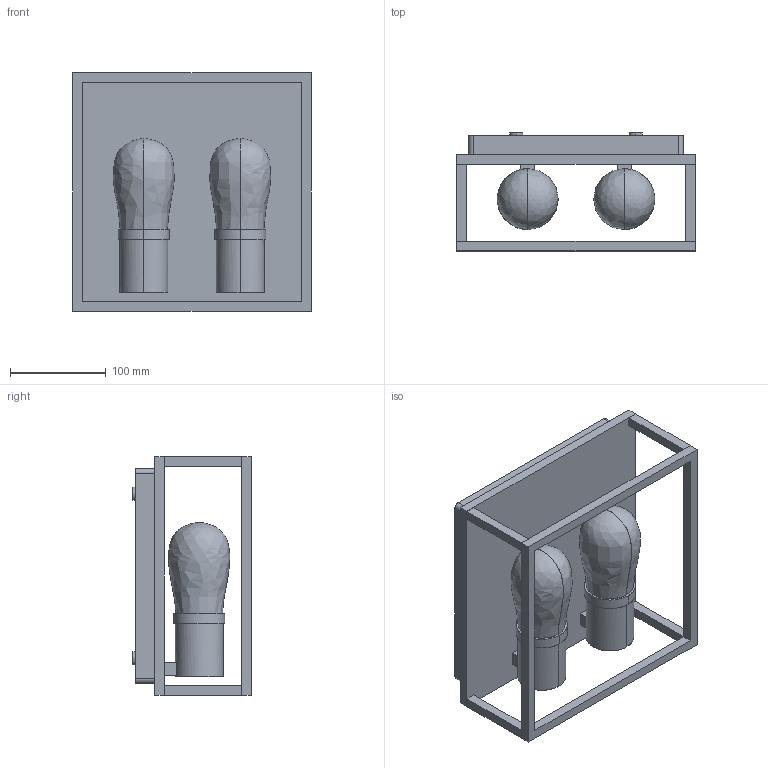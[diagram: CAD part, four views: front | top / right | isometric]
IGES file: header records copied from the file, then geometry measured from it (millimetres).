
Start section: SolidWorks IGES file using analytic representation for surfaces
Global section: file name: C:\Users\anna.bielnik\Desktop\modele 3D tymczasowe\MARGOT\MARGOT-10503\MARGOT-10503 PM\MARGOT B.IGS; native system: SolidWorks 2023; preprocessor: SolidWorks 2023; author: anna.bielnik; date: 230703.101834; units: millimetre
Bounding box: 250 x 124 x 250.23 mm (x, y, z)
Surface area: 429596.2 mm2 (no closed solid volume)
Topology: 0 solids, 0 shells, 206 faces, 2116 edges, 2088 vertices
Faces by surface type: bspline 126, revolution 80
